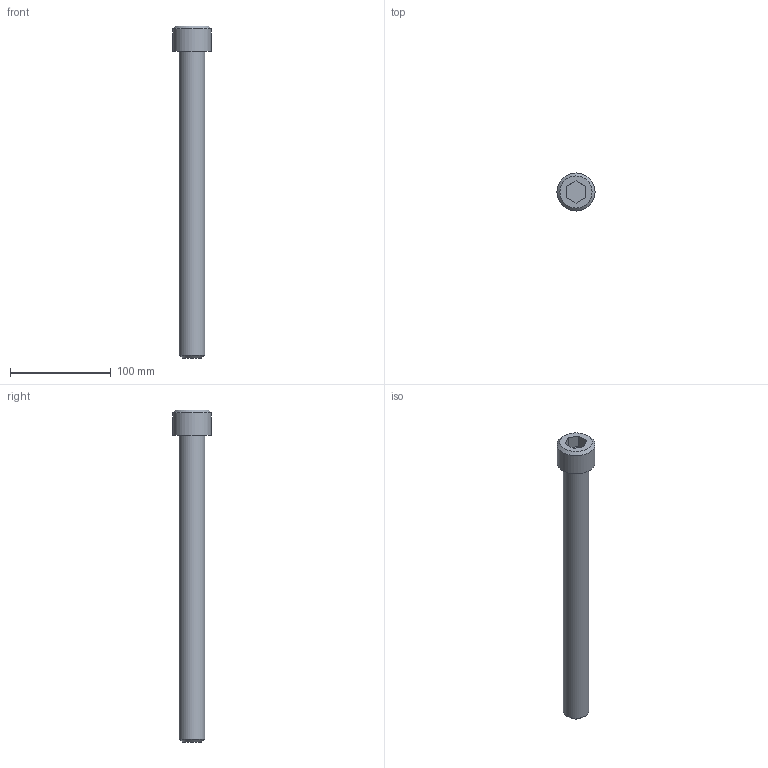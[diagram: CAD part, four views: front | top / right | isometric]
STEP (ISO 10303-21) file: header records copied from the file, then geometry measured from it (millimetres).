
FILE_DESCRIPTION((''),'2;1');
FILE_NAME('C:\Users\Stan\Desktop\import\SHCS 1-8 UNCx12.ipt.step','2011-08-18T17:44:11',(''),(''),'Autodesk Inventor 2012','Autodesk Inventor 2012','');
FILE_SCHEMA(('AUTOMOTIVE_DESIGN { 1 0 10303 214 1 1 1 1 }'));
Length unit declared in the file: inch
Products named in the file (1): SHCS 1-8 UNCx12
Bounding box: 37.8 x 37.8 x 330.05 mm (x, y, z)
Volume: 178037.4 mm3; surface area: 30034.8 mm2
Topology: 1 solids, 1 shells, 14 faces, 28 edges, 18 vertices
Faces by surface type: plane 10, cone 2, cylinder 2
Full cylindrical faces by diameter (mm): 25.4 x1, 37.795 x1
Entity records: 391 total; most frequent: DIRECTION 60, CARTESIAN_POINT 57, ORIENTED_EDGE 48, EDGE_CURVE 24, AXIS2_PLACEMENT_3D 21, EDGE_LOOP 20, VERTEX_POINT 18, VECTOR 18
